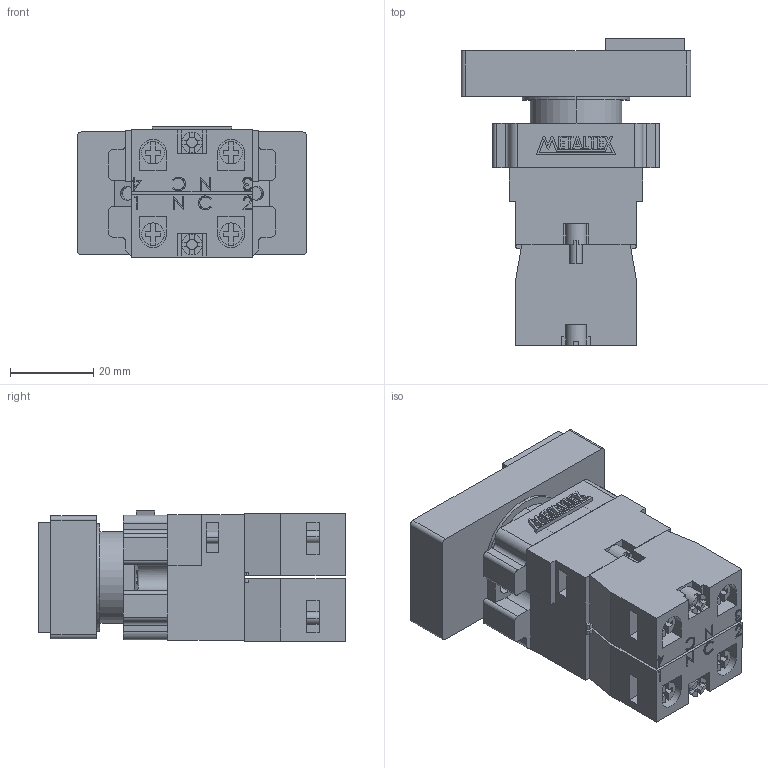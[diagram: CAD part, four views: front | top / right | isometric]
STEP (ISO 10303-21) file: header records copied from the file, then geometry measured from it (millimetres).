
FILE_DESCRIPTION (( 'STEP AP203' ), '1' );
FILE_NAME ('M20ITL-Y-1C.STEP', '2018-01-17T14:19:51', ( '' ), ( '' ), 'SwSTEP 2.0', 'SolidWorks 2012', '' );
FILE_SCHEMA (( 'CONFIG_CONTROL_DESIGN' ));
Length unit declared in the file: millimetre
Products named in the file (6): M20ITL-Y-1C; METALTEX 18,98; M20-1B; M20-IL; M20-1A; M20ITL
Assembly tree (5 placements, depth 2):
  M20ITL-Y-1C
    M20ITL
    M20-1A
    M20-IL
    M20-1B
    METALTEX 18,98
Bounding box: 55 x 73.75 x 31.2 mm (x, y, z)
Volume: 67089.9 mm3; surface area: 26143.9 mm2
Topology: 11 solids, 11 shells, 711 faces, 1862 edges, 1236 vertices
Faces by surface type: plane 515, cylinder 134, bspline 46, torus 16
Entity records: 25212 total; most frequent: CARTESIAN_POINT 6959, ORIENTED_EDGE 3724, DIRECTION 3496, EDGE_CURVE 1862, VECTOR 1374, LINE 1374, VERTEX_POINT 1236, AXIS2_PLACEMENT_3D 1061
